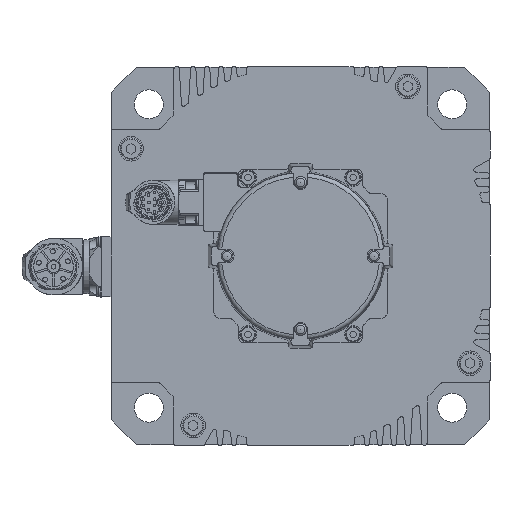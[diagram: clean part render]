
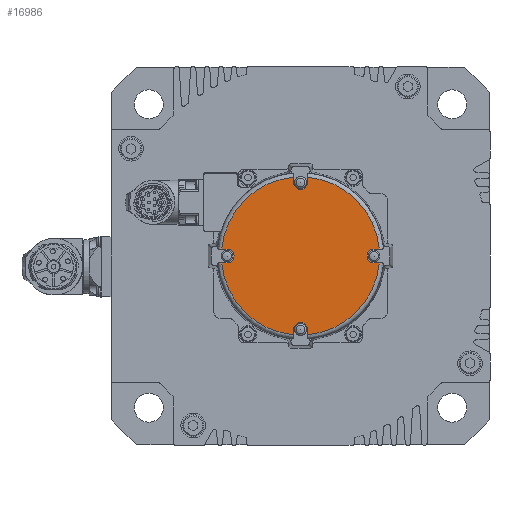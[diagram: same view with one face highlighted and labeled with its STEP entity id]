
A CAD part, left-side view. The second image highlights one B-rep face of the part: STEP entity #16986.
In plain terms, the highlighted planar face has unit normal (-1, 0, 0).
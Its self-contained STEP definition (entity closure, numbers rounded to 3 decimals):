
#731=LINE('',#26000,#2158);
#732=LINE('',#26004,#2159);
#733=LINE('',#26008,#2160);
#734=LINE('',#26012,#2161);
#735=LINE('',#26016,#2162);
#736=LINE('',#26020,#2163);
#737=LINE('',#26024,#2164);
#738=LINE('',#26028,#2165);
#2158=VECTOR('',#20206,1000.);
#2159=VECTOR('',#20209,1000.);
#2160=VECTOR('',#20212,1000.);
#2161=VECTOR('',#20215,1000.);
#2162=VECTOR('',#20218,1000.);
#2163=VECTOR('',#20221,1000.);
#2164=VECTOR('',#20224,1000.);
#2165=VECTOR('',#20227,1000.);
#3666=ORIENTED_EDGE('',*,*,#8808,.T.);
#3667=ORIENTED_EDGE('',*,*,#8809,.F.);
#3668=ORIENTED_EDGE('',*,*,#8810,.F.);
#3669=ORIENTED_EDGE('',*,*,#8811,.F.);
#3670=ORIENTED_EDGE('',*,*,#8812,.T.);
#3671=ORIENTED_EDGE('',*,*,#8813,.F.);
#3672=ORIENTED_EDGE('',*,*,#8814,.F.);
#3673=ORIENTED_EDGE('',*,*,#8815,.F.);
#3674=ORIENTED_EDGE('',*,*,#8816,.T.);
#3675=ORIENTED_EDGE('',*,*,#8817,.F.);
#3676=ORIENTED_EDGE('',*,*,#8818,.F.);
#3677=ORIENTED_EDGE('',*,*,#8819,.F.);
#3678=ORIENTED_EDGE('',*,*,#8820,.T.);
#3679=ORIENTED_EDGE('',*,*,#8821,.F.);
#3680=ORIENTED_EDGE('',*,*,#8822,.F.);
#3681=ORIENTED_EDGE('',*,*,#8823,.F.);
#8808=EDGE_CURVE('',#11379,#11380,#13059,.T.);
#8809=EDGE_CURVE('',#11381,#11380,#731,.T.);
#8810=EDGE_CURVE('',#11382,#11381,#13060,.T.);
#8811=EDGE_CURVE('',#11383,#11382,#732,.T.);
#8812=EDGE_CURVE('',#11383,#11384,#13061,.T.);
#8813=EDGE_CURVE('',#11385,#11384,#733,.T.);
#8814=EDGE_CURVE('',#11386,#11385,#13062,.T.);
#8815=EDGE_CURVE('',#11387,#11386,#734,.T.);
#8816=EDGE_CURVE('',#11387,#11388,#13063,.T.);
#8817=EDGE_CURVE('',#11389,#11388,#735,.T.);
#8818=EDGE_CURVE('',#11390,#11389,#13064,.T.);
#8819=EDGE_CURVE('',#11391,#11390,#736,.T.);
#8820=EDGE_CURVE('',#11391,#11392,#13065,.T.);
#8821=EDGE_CURVE('',#11393,#11392,#737,.T.);
#8822=EDGE_CURVE('',#11394,#11393,#13066,.T.);
#8823=EDGE_CURVE('',#11379,#11394,#738,.T.);
#11379=VERTEX_POINT('',#25998);
#11380=VERTEX_POINT('',#25999);
#11381=VERTEX_POINT('',#26001);
#11382=VERTEX_POINT('',#26003);
#11383=VERTEX_POINT('',#26005);
#11384=VERTEX_POINT('',#26007);
#11385=VERTEX_POINT('',#26009);
#11386=VERTEX_POINT('',#26011);
#11387=VERTEX_POINT('',#26013);
#11388=VERTEX_POINT('',#26015);
#11389=VERTEX_POINT('',#26017);
#11390=VERTEX_POINT('',#26019);
#11391=VERTEX_POINT('',#26021);
#11392=VERTEX_POINT('',#26023);
#11393=VERTEX_POINT('',#26025);
#11394=VERTEX_POINT('',#26027);
#13059=CIRCLE('',#18093,3.25);
#13060=CIRCLE('',#18094,36.85);
#13061=CIRCLE('',#18095,3.25);
#13062=CIRCLE('',#18096,36.85);
#13063=CIRCLE('',#18097,3.25);
#13064=CIRCLE('',#18098,36.85);
#13065=CIRCLE('',#18099,3.25);
#13066=CIRCLE('',#18100,36.85);
#13996=EDGE_LOOP('',(#3666,#3667,#3668,#3669,#3670,#3671,#3672,#3673,#3674,
#3675,#3676,#3677,#3678,#3679,#3680,#3681));
#15222=FACE_BOUND('',#13996,.T.);
#16437=PLANE('',#18092);
#16986=ADVANCED_FACE('',(#15222),#16437,.F.);
#18092=AXIS2_PLACEMENT_3D('',#25996,#20202,#20203);
#18093=AXIS2_PLACEMENT_3D('',#25997,#20204,#20205);
#18094=AXIS2_PLACEMENT_3D('',#26002,#20207,#20208);
#18095=AXIS2_PLACEMENT_3D('',#26006,#20210,#20211);
#18096=AXIS2_PLACEMENT_3D('',#26010,#20213,#20214);
#18097=AXIS2_PLACEMENT_3D('',#26014,#20216,#20217);
#18098=AXIS2_PLACEMENT_3D('',#26018,#20219,#20220);
#18099=AXIS2_PLACEMENT_3D('',#26022,#20222,#20223);
#18100=AXIS2_PLACEMENT_3D('',#26026,#20225,#20226);
#20202=DIRECTION('',(1.,0.,0.));
#20203=DIRECTION('',(0.,0.,-1.));
#20204=DIRECTION('',(1.,0.,0.));
#20205=DIRECTION('',(0.,0.,-1.));
#20206=DIRECTION('',(0.,-1.,0.));
#20207=DIRECTION('',(1.,0.,0.));
#20208=DIRECTION('',(0.,0.,-1.));
#20209=DIRECTION('',(0.,0.,-1.));
#20210=DIRECTION('',(1.,0.,0.));
#20211=DIRECTION('',(0.,0.,-1.));
#20212=DIRECTION('',(0.,0.,1.));
#20213=DIRECTION('',(1.,0.,0.));
#20214=DIRECTION('',(0.,0.,-1.));
#20215=DIRECTION('',(0.,-1.,0.));
#20216=DIRECTION('',(1.,0.,0.));
#20217=DIRECTION('',(0.,0.,-1.));
#20218=DIRECTION('',(0.,1.,0.));
#20219=DIRECTION('',(1.,0.,0.));
#20220=DIRECTION('',(0.,0.,-1.));
#20221=DIRECTION('',(0.,0.,1.));
#20222=DIRECTION('',(1.,0.,0.));
#20223=DIRECTION('',(0.,0.,-1.));
#20224=DIRECTION('',(0.,0.,-1.));
#20225=DIRECTION('',(1.,0.,0.));
#20226=DIRECTION('',(0.,0.,-1.));
#20227=DIRECTION('',(0.,1.,0.));
#25996=CARTESIAN_POINT('',(-178.,0.,0.));
#25997=CARTESIAN_POINT('',(-178.,34.25,0.));
#25998=CARTESIAN_POINT('',(-178.,34.25,3.25));
#25999=CARTESIAN_POINT('',(-178.,34.25,-3.25));
#26000=CARTESIAN_POINT('',(-178.,38.166,-3.25));
#26001=CARTESIAN_POINT('',(-178.,36.706,-3.25));
#26002=CARTESIAN_POINT('',(-178.,0.,0.));
#26003=CARTESIAN_POINT('',(-178.,3.25,-36.706));
#26004=CARTESIAN_POINT('',(-178.,3.25,-34.25));
#26005=CARTESIAN_POINT('',(-178.,3.25,-34.25));
#26006=CARTESIAN_POINT('',(-178.,0.,-34.25));
#26007=CARTESIAN_POINT('',(-178.,-3.25,-34.25));
#26008=CARTESIAN_POINT('',(-178.,-3.25,-38.166));
#26009=CARTESIAN_POINT('',(-178.,-3.25,-36.706));
#26010=CARTESIAN_POINT('',(-178.,0.,0.));
#26011=CARTESIAN_POINT('',(-178.,-36.706,-3.25));
#26012=CARTESIAN_POINT('',(-178.,-34.25,-3.25));
#26013=CARTESIAN_POINT('',(-178.,-34.25,-3.25));
#26014=CARTESIAN_POINT('',(-178.,-34.25,0.));
#26015=CARTESIAN_POINT('',(-178.,-34.25,3.25));
#26016=CARTESIAN_POINT('',(-178.,-38.166,3.25));
#26017=CARTESIAN_POINT('',(-178.,-36.706,3.25));
#26018=CARTESIAN_POINT('',(-178.,0.,0.));
#26019=CARTESIAN_POINT('',(-178.,-3.25,36.706));
#26020=CARTESIAN_POINT('',(-178.,-3.25,34.25));
#26021=CARTESIAN_POINT('',(-178.,-3.25,34.25));
#26022=CARTESIAN_POINT('',(-178.,0.,34.25));
#26023=CARTESIAN_POINT('',(-178.,3.25,34.25));
#26024=CARTESIAN_POINT('',(-178.,3.25,38.166));
#26025=CARTESIAN_POINT('',(-178.,3.25,36.706));
#26026=CARTESIAN_POINT('',(-178.,0.,0.));
#26027=CARTESIAN_POINT('',(-178.,36.706,3.25));
#26028=CARTESIAN_POINT('',(-178.,34.25,3.25));
